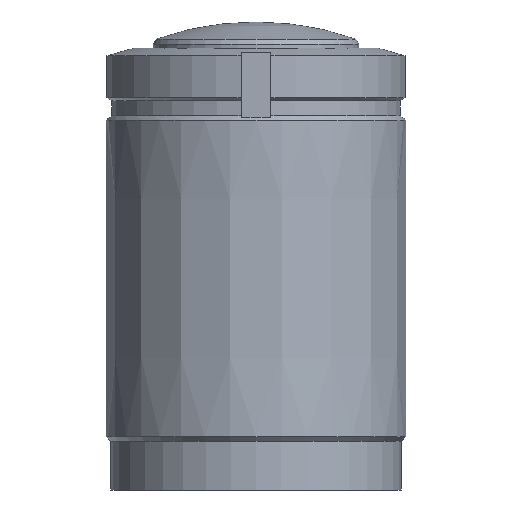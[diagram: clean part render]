
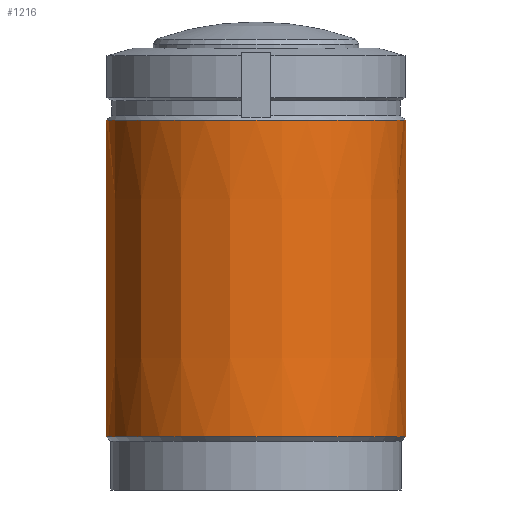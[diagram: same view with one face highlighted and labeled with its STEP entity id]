
A CAD part, front view. The second image highlights one B-rep face of the part: STEP entity #1216.
In plain terms, the highlighted conical face has half-angle 0 degrees and reference radius 40 mm.
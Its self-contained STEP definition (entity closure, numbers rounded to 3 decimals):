
#1153=CARTESIAN_POINT('',(-40.,0.0,-103.8));
#1154=VERTEX_POINT('',#1153);
#1162=CARTESIAN_POINT('',(40.,0.0,-103.8));
#1163=VERTEX_POINT('',#1162);
#1170=CARTESIAN_POINT('',(-0.0,0.0,-103.8));
#1171=DIRECTION('',(0.0,0.0,1.0));
#1172=DIRECTION('',(1.0,0.0,0.0));
#1173=AXIS2_PLACEMENT_3D('',#1170,#1171,#1172);
#1174=CIRCLE('',#1173,40.);
#1175=EDGE_CURVE('no 2171',#1154,#1163,#1174,.T.);
#1185=CARTESIAN_POINT('',(40.,0.0,-19.25));
#1186=VERTEX_POINT('',#1185);
#1187=CARTESIAN_POINT('',(40.,0.0,-19.25));
#1188=DIRECTION('',(0.,0.0,-1.0));
#1189=VECTOR('',#1188,1.0);
#1190=LINE('',#1187,#1189);
#1191=EDGE_CURVE('no 2181',#1186,#1163,#1190,.T.);
#1192=ORIENTED_EDGE('',*,*,#1191,.F.);
#1193=CARTESIAN_POINT('',(-40.,0.0,-19.25));
#1194=VERTEX_POINT('',#1193);
#1195=CARTESIAN_POINT('',(-0.0,0.0,-19.25));
#1196=DIRECTION('',(0.0,0.0,1.0));
#1197=DIRECTION('',(1.0,0.0,0.0));
#1198=AXIS2_PLACEMENT_3D('',#1195,#1196,#1197);
#1199=CIRCLE('',#1198,40.);
#1200=EDGE_CURVE('no 2187',#1194,#1186,#1199,.T.);
#1201=ORIENTED_EDGE('',*,*,#1200,.F.);
#1202=CARTESIAN_POINT('',(-40.,0.0,-19.25));
#1203=DIRECTION('',(0.,0.0,-1.0));
#1204=VECTOR('',#1203,1.0);
#1205=LINE('',#1202,#1204);
#1206=EDGE_CURVE('no 2191',#1194,#1154,#1205,.T.);
#1207=ORIENTED_EDGE('',*,*,#1206,.T.);
#1208=ORIENTED_EDGE('',*,*,#1175,.T.);
#1209=EDGE_LOOP('',(#1192,#1201,#1207,#1208));
#1210=FACE_OUTER_BOUND('',#1209,.T.);
#1211=CARTESIAN_POINT('',(-0.0,0.0,-103.8));
#1212=DIRECTION('',(0.0,0.0,-1.0));
#1213=DIRECTION('',(-0.0,1.0,0.0));
#1214=AXIS2_PLACEMENT_3D('',#1211,#1212,#1213);
#1215=CONICAL_SURFACE('',#1214,40.,0.);
#1216=ADVANCED_FACE('no 2174',(#1210),#1215,.T.);
